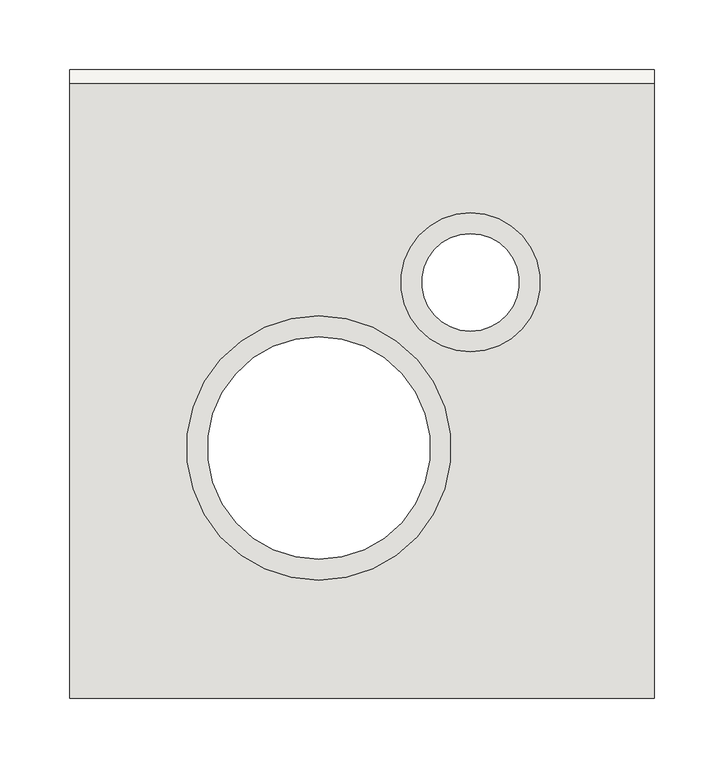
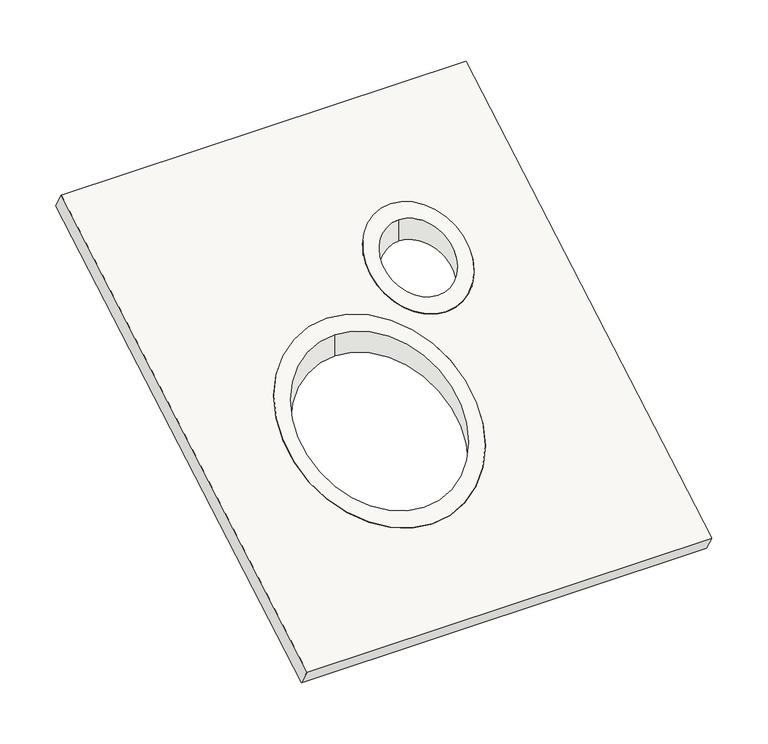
"""IFC4 building model written with IfcOpenShell, lengths in millimetres: covering geometry, MG_BPL_Mini Delta _roofboard_M&G : roofboard Mini-Delta."""

from ifc_helpers import new_model, si_unit, frame, origin, place, context, project, spatial, polyline, ellipse_curve, source, transform, mapped, element, save
from ifc_brep_helpers import plane_surface, cylinder_surface, revolved_surface, advanced_brep


def covering_66b418f2(model_context):
    return source(origin(), model_context, "Body", "AdvancedBrep", [
        advanced_brep(
        [(-31.0, 39.0, -0.5773503), (-31.0, -121.0, -92.9533933), (-31.0, -121.0, -69.8593826), (-31.0, 39.0, 22.5166605), (-31.0, -136.0, -101.6136474), (-31.0, 54.0, 8.0829038), (-31.0, 54.0, 31.1769145), (-31.0, -136.0, -78.5196366)],
        [
            (0, 1, ellipse_curve(frame((-31.0, -41.0, -46.7653718), z_axis=(0.0, 0.4999999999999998, -0.8660254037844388), x_axis=(0.0, -0.866025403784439, -0.49999999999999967)), 92.3760431, 80.0)),
            (1, 2),
            (2, 3, ellipse_curve(frame((-31.0, -41.0, -23.671361), z_axis=(0.0, -0.4999999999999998, 0.8660254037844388), x_axis=(0.0, -0.866025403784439, -0.49999999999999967)), 92.3760431, 80.0)),
            (3, 0),
            (1, 0, ellipse_curve(frame((-31.0, -41.0, -46.7653718), z_axis=(0.0, 0.4999999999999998, -0.8660254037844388), x_axis=(0.0, -0.866025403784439, -0.49999999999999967)), 92.3760431, 80.0)),
            (3, 2, ellipse_curve(frame((-31.0, -41.0, -23.671361), z_axis=(0.0, -0.4999999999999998, 0.8660254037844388), x_axis=(0.0, -0.866025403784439, -0.49999999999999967)), 92.3760431, 80.0)),
            (4, 5, ellipse_curve(frame((-31.0, -41.0, -46.7653718), z_axis=(0.0, -0.4999999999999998, 0.8660254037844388), x_axis=(0.0, 0.866025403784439, 0.49999999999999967)), 109.6965511, 95.0)),
            (5, 6),
            (6, 7, ellipse_curve(frame((-31.0, -41.0, -23.671361), z_axis=(0.0, 0.4999999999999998, -0.8660254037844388), x_axis=(0.0, 0.866025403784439, 0.49999999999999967)), 109.6965511, 95.0)),
            (7, 4),
            (5, 4, ellipse_curve(frame((-31.0, -41.0, -46.7653718), z_axis=(0.0, -0.4999999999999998, 0.8660254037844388), x_axis=(0.0, 0.866025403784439, 0.49999999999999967)), 109.6965511, 95.0)),
            (7, 6, ellipse_curve(frame((-31.0, -41.0, -23.671361), z_axis=(0.0, 0.4999999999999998, -0.8660254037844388), x_axis=(0.0, 0.866025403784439, 0.49999999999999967)), 109.6965511, 95.0)),
        ],
        [
            revolved_surface(polyline([(-31.0, 39.0, -92.95339334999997), (-31.0, 39.0, 22.516660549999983)]), (-31.0, -41.0, -200.0), (0.0, 0.0, -1.0)),
            cylinder_surface(frame((-31.0, -41.0, 0.0), z_axis=(0.0, 0.0, 1.0), x_axis=(0.0, 1.0, 0.0)), 95.0),
            plane_surface(frame((210.0, -210.836478, -144.8205081), z_axis=(0.0, 0.4999999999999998, -0.8660254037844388), x_axis=(0.0, 0.8660254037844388, 0.4999999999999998))),
            plane_surface(frame((210.0, -220.836478, -127.5), z_axis=(0.0, -0.4999999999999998, 0.8660254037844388), x_axis=(0.0, -0.8660254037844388, -0.4999999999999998))),
        ],
        [
            (0, [[1, 2, 3, 4]]),
            (0, [[5, -4, 6, -2]]),
            (1, [[7, 8, 9, 10]]),
            (1, [[11, -10, 12, -8]]),
            (2, [[-7, -11], [-1, -5]]),
            (3, [[-9, -12], [-3, -6]]),
        ],
    ),
        advanced_brep(
        [(78.0, 43.0, 24.8260616), (78.0, 113.0, 65.2405804), (78.0, 113.0, 42.1465697), (78.0, 43.0, 1.7320508), (78.0, 128.0, 73.9008345), (78.0, 28.0, 16.1658075), (78.0, 28.0, -6.9282032), (78.0, 128.0, 50.8068237)],
        [
            (0, 1, ellipse_curve(frame((78.0, 78.0, 45.033321), z_axis=(0.0, -0.4999999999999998, 0.8660254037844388), x_axis=(0.0, -0.866025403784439, -0.49999999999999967)), 40.4145188, 35.0)),
            (1, 2),
            (2, 3, ellipse_curve(frame((78.0, 78.0, 21.9393102), z_axis=(0.0, 0.4999999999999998, -0.8660254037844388), x_axis=(0.0, -0.866025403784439, -0.49999999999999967)), 40.4145188, 35.0)),
            (3, 0),
            (1, 0, ellipse_curve(frame((78.0, 78.0, 45.033321), z_axis=(0.0, -0.4999999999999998, 0.8660254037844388), x_axis=(0.0, -0.866025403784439, -0.49999999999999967)), 40.4145188, 35.0)),
            (3, 2, ellipse_curve(frame((78.0, 78.0, 21.9393102), z_axis=(0.0, 0.4999999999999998, -0.8660254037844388), x_axis=(0.0, -0.866025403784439, -0.49999999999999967)), 40.4145188, 35.0)),
            (4, 5, ellipse_curve(frame((78.0, 78.0, 45.033321), z_axis=(0.0, 0.4999999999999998, -0.8660254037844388), x_axis=(0.0, 0.866025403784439, 0.49999999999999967)), 57.7350269, 50.0)),
            (5, 6),
            (6, 7, ellipse_curve(frame((78.0, 78.0, 21.9393102), z_axis=(0.0, -0.4999999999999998, 0.8660254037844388), x_axis=(0.0, 0.866025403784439, 0.49999999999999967)), 57.7350269, 50.0)),
            (7, 4),
            (5, 4, ellipse_curve(frame((78.0, 78.0, 45.033321), z_axis=(0.0, 0.4999999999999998, -0.8660254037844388), x_axis=(0.0, 0.866025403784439, 0.49999999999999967)), 57.7350269, 50.0)),
            (7, 6, ellipse_curve(frame((78.0, 78.0, 21.9393102), z_axis=(0.0, -0.4999999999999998, 0.8660254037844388), x_axis=(0.0, 0.866025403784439, 0.49999999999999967)), 57.7350269, 50.0)),
        ],
        [
            revolved_surface(polyline([(78.0, 113.0, 1.7320507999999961), (78.0, 113.0, 65.2405804)]), (78.0, 78.0, -200.0), (0.0, 0.0, -1.0)),
            cylinder_surface(frame((78.0, 78.0, 0.0), z_axis=(0.0, 0.0, 1.0), x_axis=(0.0, 1.0, 0.0)), 50.0),
            plane_surface(frame((210.0, -220.836478, -127.5), z_axis=(0.0, -0.4999999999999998, 0.8660254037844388), x_axis=(0.0, -0.8660254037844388, -0.4999999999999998))),
            plane_surface(frame((210.0, -210.836478, -144.8205081), z_axis=(0.0, 0.4999999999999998, -0.8660254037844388), x_axis=(0.0, 0.8660254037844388, 0.4999999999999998))),
        ],
        [
            (0, [[1, 2, 3, 4]]),
            (0, [[5, -4, 6, -2]]),
            (1, [[7, 8, 9, 10]]),
            (1, [[11, -10, 12, -8]]),
            (2, [[-7, -11], [-1, -5]]),
            (3, [[-9, -12], [-3, -6]]),
        ],
    ),
        advanced_brep(
        [(210.0, -210.836478, -144.8205081), (-210.0, -210.836478, -144.8205081), (-210.0, 230.836478, 110.1794919), (210.0, 230.836478, 110.1794919), (-31.0, -136.0, -101.6136474), (-31.0, 54.0, 8.0829038), (78.0, 28.0, -6.9282032), (78.0, 128.0, 50.8068237), (210.0, -220.836478, -127.5), (210.0, 220.836478, 127.5), (-210.0, 220.836478, 127.5), (-210.0, -220.836478, -127.5), (-31.0, 54.0, 31.1769145), (-31.0, -136.0, -78.5196366), (78.0, 128.0, 73.9008345), (78.0, 28.0, 16.1658075)],
        [
            (0, 1),
            (1, 2),
            (2, 3),
            (3, 0),
            (4, 5, ellipse_curve(frame((-31.0, -41.0, -46.7653718), z_axis=(0.0, -0.4999999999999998, 0.8660254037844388), x_axis=(0.0, 0.866025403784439, 0.49999999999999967)), 109.6965511, 95.0)),
            (5, 4, ellipse_curve(frame((-31.0, -41.0, -46.7653718), z_axis=(0.0, -0.4999999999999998, 0.8660254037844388), x_axis=(0.0, 0.866025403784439, 0.49999999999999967)), 109.6965511, 95.0)),
            (6, 7, ellipse_curve(frame((78.0, 78.0, 21.9393102), z_axis=(0.0, -0.4999999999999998, 0.8660254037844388), x_axis=(0.0, 0.866025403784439, 0.49999999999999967)), 57.7350269, 50.0)),
            (7, 6, ellipse_curve(frame((78.0, 78.0, 21.9393102), z_axis=(0.0, -0.4999999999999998, 0.8660254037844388), x_axis=(0.0, 0.866025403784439, 0.49999999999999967)), 57.7350269, 50.0)),
            (8, 9),
            (9, 10),
            (10, 11),
            (11, 8),
            (12, 13, ellipse_curve(frame((-31.0, -41.0, -23.671361), z_axis=(0.0, 0.4999999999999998, -0.8660254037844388), x_axis=(0.0, 0.866025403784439, 0.49999999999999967)), 109.6965511, 95.0)),
            (13, 12, ellipse_curve(frame((-31.0, -41.0, -23.671361), z_axis=(0.0, 0.4999999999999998, -0.8660254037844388), x_axis=(0.0, 0.866025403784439, 0.49999999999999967)), 109.6965511, 95.0)),
            (14, 15, ellipse_curve(frame((78.0, 78.0, 45.033321), z_axis=(0.0, 0.4999999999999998, -0.8660254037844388), x_axis=(0.0, 0.866025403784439, 0.49999999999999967)), 57.7350269, 50.0)),
            (15, 14, ellipse_curve(frame((78.0, 78.0, 45.033321), z_axis=(0.0, 0.4999999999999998, -0.8660254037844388), x_axis=(0.0, 0.866025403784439, 0.49999999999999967)), 57.7350269, 50.0)),
            (3, 9),
            (8, 0),
            (2, 10),
            (1, 11),
            (4, 13),
            (12, 5),
            (6, 15),
            (14, 7),
        ],
        [
            plane_surface(frame((210.0, -210.836478, -144.8205081), z_axis=(0.0, 0.4999999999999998, -0.8660254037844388), x_axis=(0.0, -0.8660254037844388, -0.4999999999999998))),
            plane_surface(frame((210.0, -220.836478, -127.5), z_axis=(0.0, -0.4999999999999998, 0.8660254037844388), x_axis=(0.0, 0.8660254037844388, 0.4999999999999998))),
            plane_surface(frame((210.0, -220.836478, -127.5), z_axis=(1.0, 0.0, 0.0), x_axis=(0.0, 0.5000000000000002, -0.8660254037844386))),
            plane_surface(frame((210.0, 220.836478, 127.5), z_axis=(0.0, 0.8660254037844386, 0.5000000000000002), x_axis=(0.0, 0.5000000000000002, -0.8660254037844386))),
            plane_surface(frame((-210.0, 220.836478, 127.5), z_axis=(-1.0, 0.0, 0.0), x_axis=(0.0, 0.5000000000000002, -0.8660254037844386))),
            plane_surface(frame((-210.0, -220.836478, -127.5), z_axis=(0.0, -0.8660254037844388, -0.49999999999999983), x_axis=(0.0, 0.49999999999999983, -0.8660254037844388))),
            revolved_surface(polyline([(-31.0, 54.0, 31.176914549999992), (-31.0, 54.0, -101.61364739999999)]), (-31.0, -41.0, -350.0), (0.0, 0.0, 1.0)),
            revolved_surface(polyline([(78.0, 128.0, 73.90083449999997), (78.0, 128.0, -6.928203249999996)]), (78.0, 78.0, -200.0), (0.0, 0.0, 1.0)),
        ],
        [
            (0, [[1, 2, 3, 4], [5, 6], [7, 8]]),
            (1, [[9, 10, 11, 12], [13, 14], [15, 16]]),
            (2, [[-4, 17, -9, 18]]),
            (3, [[-3, 19, -10, -17]]),
            (4, [[-2, 20, -11, -19]]),
            (5, [[-1, -18, -12, -20]]),
            (6, [[21, -13, 22, -5]]),
            (6, [[-21, -6, -22, -14]]),
            (7, [[23, -15, 24, -7]]),
            (7, [[-23, -8, -24, -16]]),
        ],
    ),
    ])


if __name__ == "__main__":
    model = new_model("IFC4")
    model_context = context("Model", 3, world=origin())
    ifc_project = project(units=[si_unit("LENGTHUNIT", "METRE", prefix="MILLI")], contexts=[model_context])
    site = spatial("IfcSite", under=ifc_project)
    building = spatial("IfcBuilding", under=site)
    placement = place(None, origin())
    covering_shape = covering_66b418f2(model_context)
    element("IfcCovering", 1, ObjectType="MG_BPL_Mini Delta _roofboard_M&G : roofboard Mini-Delta", at=placement, inside=building, context=model_context, shape_type="MappedRepresentation", body=[
        mapped(covering_shape, transform((0.0, 0.0, 0.0), x_axis=(1.0, 0.0, 0.0), y_axis=(0.0, 1.0, 0.0), z_axis=(0.0, 0.0, 1.0))),
    ])
    save(model, "model.ifc")
